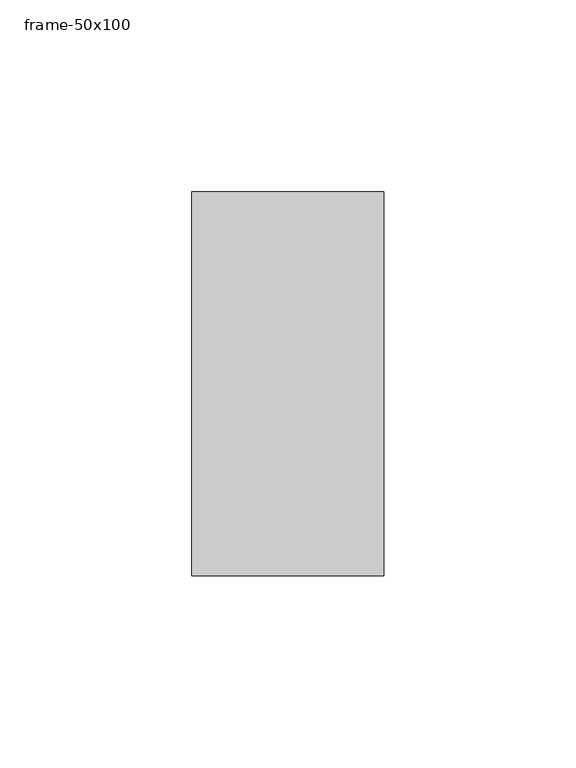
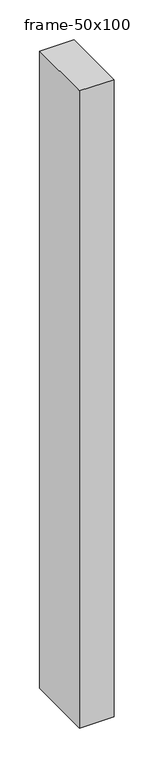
"""IFC4 building model written with IfcOpenShell, lengths in millimetres: member geometry, 長方形マリオン : frame-50x100."""

from ifc_helpers import new_model, si_unit, frame, origin, place, context, project, spatial, polyline, outline, extrude, source, transform, mapped, element, save


def frame_50x100_6d6498be(model_context):
    return source(origin(), model_context, "Body", "SweptSolid", [
        extrude(outline(polyline([(0.0, 50.0), (0.0, -50.0), (-50.0, -50.0), (-50.0, 50.0), (0.0, 50.0)])), frame((0.0, 0.0, -975.0), z_axis=(0.0, 0.0, 1.0), x_axis=(1.0, 0.0, 0.0)), (0.0, 0.0, 1.0), 975.0),
    ])


if __name__ == "__main__":
    model = new_model("IFC4")
    model_context = context("Model", 3, world=origin())
    ifc_project = project(units=[si_unit("LENGTHUNIT", "METRE", prefix="MILLI")], contexts=[model_context])
    site = spatial("IfcSite", under=ifc_project)
    building = spatial("IfcBuilding", under=site)
    placement = place(None, origin())
    frame_50x100_shape = frame_50x100_6d6498be(model_context)
    element("IfcMember", 1, ObjectType="長方形マリオン : frame-50x100", at=placement, inside=building, context=model_context, shape_type="MappedRepresentation", body=[
        mapped(frame_50x100_shape, transform((0.0, 0.0, 0.0), x_axis=(1.0, 0.0, 0.0), y_axis=(0.0, 1.0, 0.0), z_axis=(0.0, 0.0, 1.0))),
    ])
    save(model, "model.ifc")
